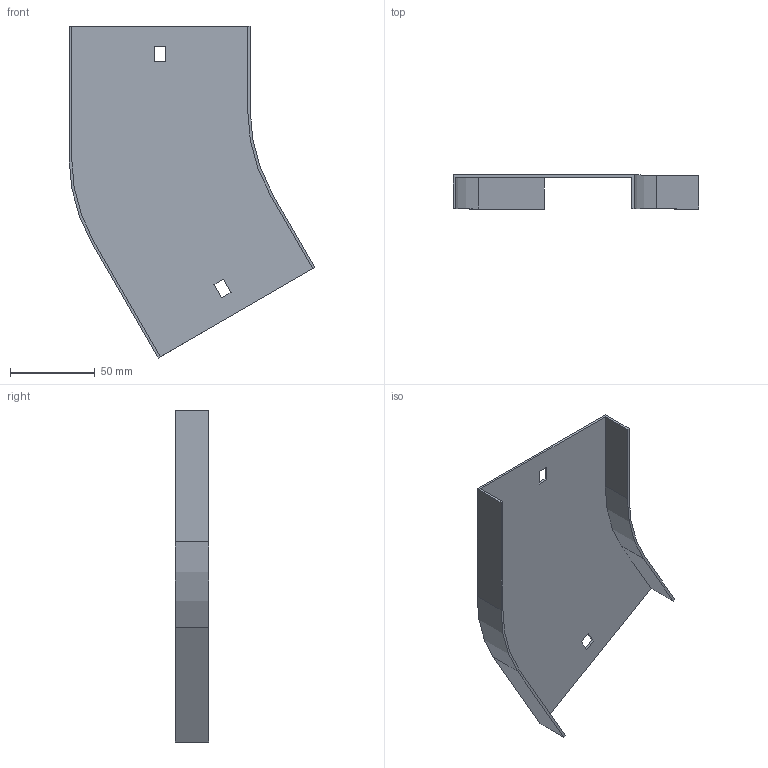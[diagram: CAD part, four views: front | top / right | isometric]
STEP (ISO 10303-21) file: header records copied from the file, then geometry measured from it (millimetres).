
FILE_DESCRIPTION (( 'STEP AP214' ), '1' );
FILE_NAME ('12N1R100.step', '2025-02-21T09:20:08', ( '' ), ( '' ), 'SwSTEP 2.0', 'SolidWorks 2023', '' );
FILE_SCHEMA (( 'AUTOMOTIVE_DESIGN' ));
Length unit declared in the file: millimetre
Products named in the file (1): 12N1R100
Bounding box: 145.2 x 20 x 196.05 mm (x, y, z)
Volume: 38945.3 mm3; surface area: 52992.8 mm2
Topology: 1 solids, 1 shells, 26 faces, 72 edges, 48 vertices
Faces by surface type: plane 22, cylinder 4
Entity records: 855 total; most frequent: CARTESIAN_POINT 147, ORIENTED_EDGE 144, DIRECTION 134, EDGE_CURVE 72, LINE 64, VECTOR 64, VERTEX_POINT 48, AXIS2_PLACEMENT_3D 35
